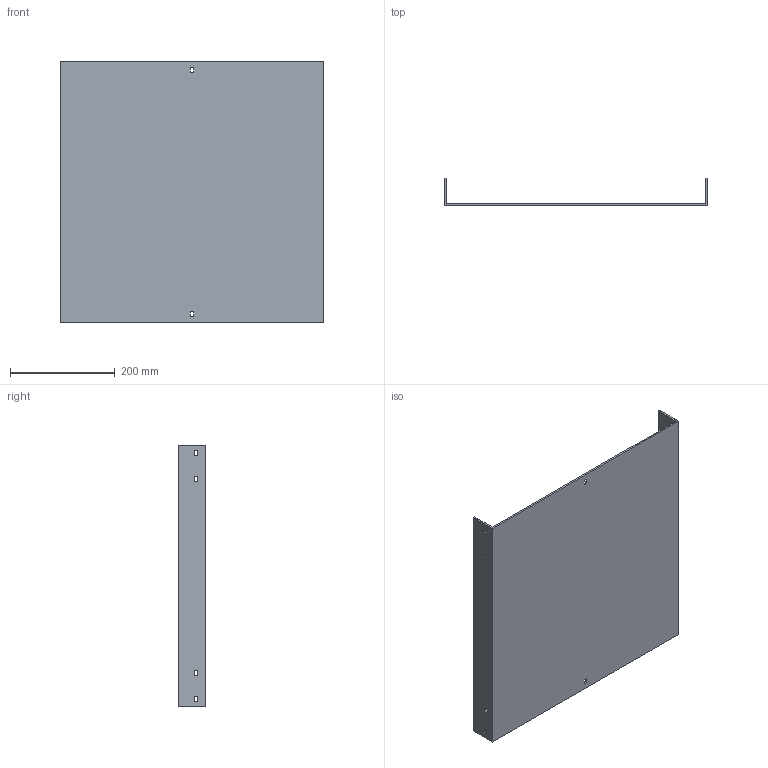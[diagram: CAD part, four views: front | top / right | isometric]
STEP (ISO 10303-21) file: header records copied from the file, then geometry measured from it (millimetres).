
FILE_DESCRIPTION (( 'STEP AP214' ), '1' );
FILE_NAME ('03F7B500.step', '2025-02-21T13:24:56', ( '' ), ( '' ), 'SwSTEP 2.0', 'SolidWorks 2023', '' );
FILE_SCHEMA (( 'AUTOMOTIVE_DESIGN' ));
Length unit declared in the file: millimetre
Products named in the file (1): 03F7B500
Bounding box: 504 x 52 x 500 mm (x, y, z)
Volume: 1049380.5 mm3; surface area: 608522 mm2
Topology: 1 solids, 1 shells, 50 faces, 144 edges, 96 vertices
Faces by surface type: plane 50
Entity records: 1671 total; most frequent: CARTESIAN_POINT 291, ORIENTED_EDGE 288, DIRECTION 246, LINE 144, EDGE_CURVE 144, VECTOR 144, VERTEX_POINT 96, EDGE_LOOP 70
